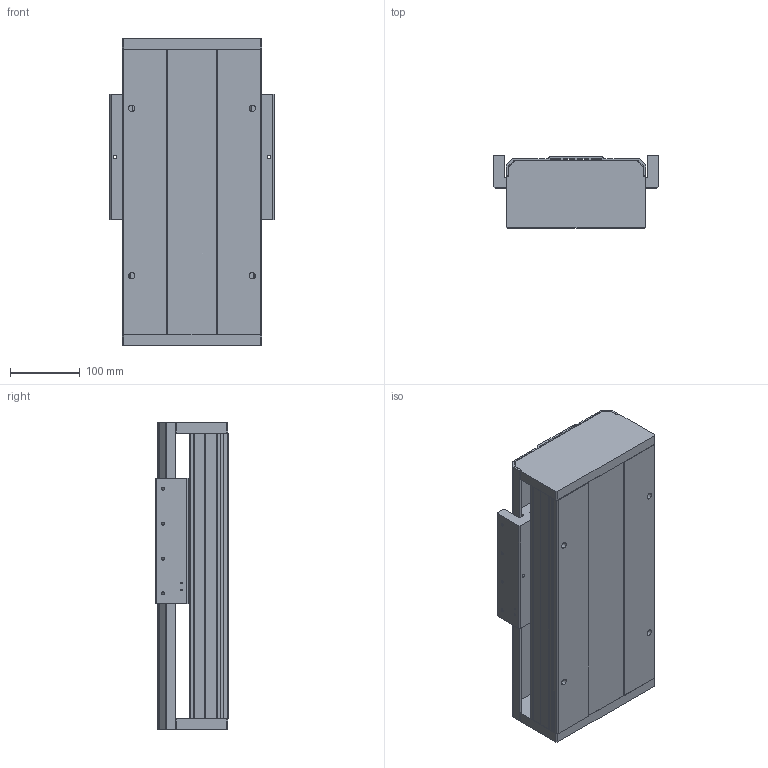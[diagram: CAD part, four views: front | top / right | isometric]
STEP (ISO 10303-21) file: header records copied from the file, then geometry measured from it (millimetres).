
FILE_DESCRIPTION (( 'STEP AP214' ), '1' );
FILE_NAME ('RF20-3-1-S.STEP', '2016-12-06T05:35:35', ( 'baejh' ), ( '' ), 'SwSTEP 2.0', 'SolidWorks 2014', '' );
FILE_SCHEMA (( 'AUTOMOTIVE_DESIGN' ));
Length unit declared in the file: millimetre
Products named in the file (1): RF20-3-1-S
Bounding box: 236 x 105 x 440 mm (x, y, z)
Volume: 3656991.2 mm3; surface area: 882370.2 mm2
Topology: 5 solids, 5 shells, 394 faces, 1122 edges, 732 vertices
Faces by surface type: plane 242, cylinder 136, cone 16
Entity records: 13180 total; most frequent: CARTESIAN_POINT 2233, ORIENTED_EDGE 2212, DIRECTION 2176, EDGE_CURVE 1106, VECTOR 826, LINE 826, VERTEX_POINT 732, AXIS2_PLACEMENT_3D 675
